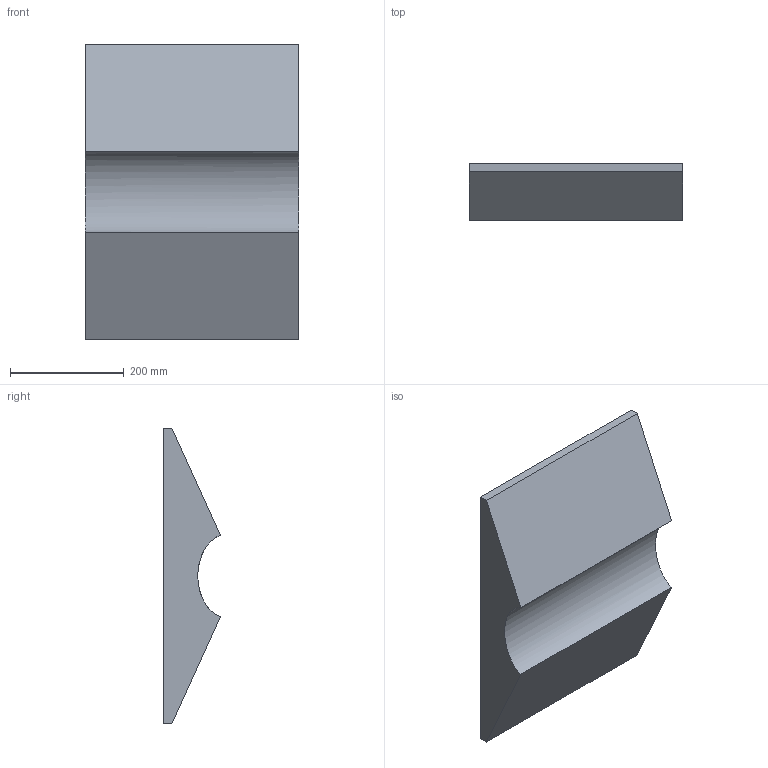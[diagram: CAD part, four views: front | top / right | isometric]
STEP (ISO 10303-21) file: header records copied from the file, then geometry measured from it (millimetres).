
FILE_DESCRIPTION(/* description */ (''),/* implementation_level */ '2;1');
FILE_NAME(/* name */ 'Sculp Wall Art Mini - Wave',/* time_stamp */ '2021-01-26T12:40:49+01:00',/* author */ (''),/* organization */ (''),/* preprocessor_version */ 'ST-DEVELOPER v15',/* originating_system */ '',/* authorisation */ '');
FILE_SCHEMA (('AUTOMOTIVE_DESIGN'));
Length unit declared in the file: millimetre
Products named in the file (1): Document
Bounding box: 375 x 100.36 x 519.95 mm (x, y, z)
Volume: 11941203.8 mm3; surface area: 490384.7 mm2
Topology: 1 solids, 1 shells, 9 faces, 21 edges, 14 vertices
Faces by surface type: plane 6, bspline 3
Entity records: 263 total; most frequent: CARTESIAN_POINT 96, ORIENTED_EDGE 42, EDGE_CURVE 21, B_SPLINE_CURVE_WITH_KNOTS 18, VERTEX_POINT 14, DIRECTION 10, ADVANCED_FACE 9, FACE_OUTER_BOUND 9
